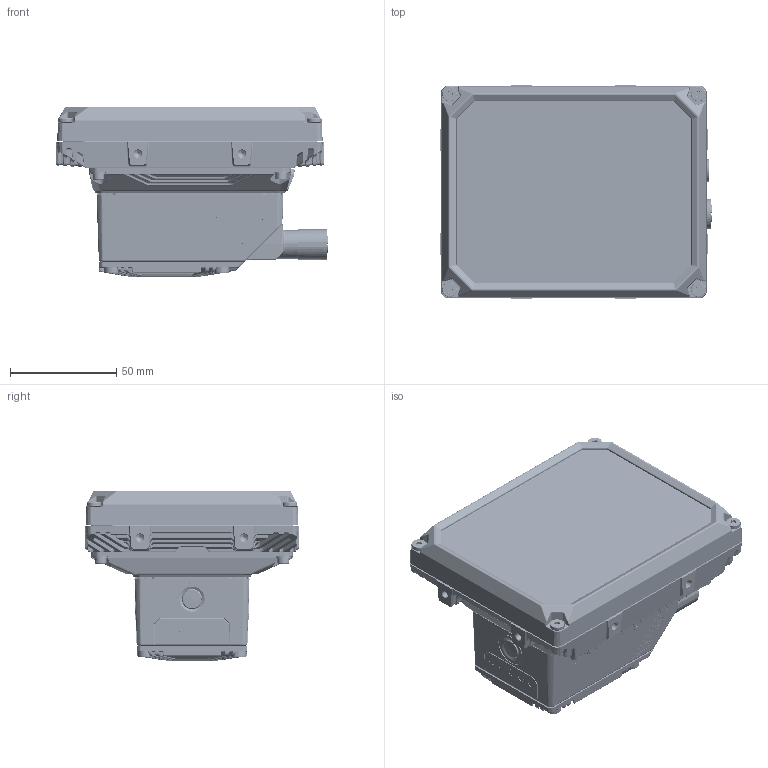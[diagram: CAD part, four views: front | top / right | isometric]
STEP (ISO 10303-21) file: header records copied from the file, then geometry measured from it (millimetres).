
FILE_DESCRIPTION(/* description */ (''),/* implementation_level */ '2;1');
FILE_NAME(/* name */ 'AP036144_00- P2X S-Mount 36 led portrait 0.stp',/* time_stamp */ '2022-05-23T09:53:53+02:00',/* author */ (''),/* organization */ (''),/* preprocessor_version */ 'ST-DEVELOPER v16.7',/* originating_system */ 'SIEMENS PLM Software NX 1946',/* authorisation */ '');
FILE_SCHEMA (('AUTOMOTIVE_DESIGN { 1 0 10303 214 3 1 1 1 }'));
Products named in the file (1): FGut78A0455Dbq0x
Bounding box: 127.95 x 101 x 79.8 mm (x, y, z)
Volume: 550931.4 mm3; surface area: 82383.3 mm2
Topology: 1 solids, 25 shells, 5854 faces, 13803 edges, 8003 vertices
Faces by surface type: cylinder 1833, plane 1685, bspline 1671, cone 212, torus 199, sphere 158, extrusion 96
Full cylindrical faces by diameter (mm): 0.6 x7, 3 x4, 3.2 x9, 3.3 x17, 3.5 x5, 3.6 x4, 5.5 x4, 6.2 x4, 6.9 x4, 7 x7, 9.5 x2, 10.5 x1, 10.7 x1, 10.8 x1, 11.15 x1, 11.85 x1, 12.2 x1, 13.5 x2, 14 x1, 15 x1, 16 x1
Entity records: 224815 total; most frequent: CARTESIAN_POINT 77468, ORIENTED_EDGE 26646, DIRECTION 24488, EDGE_CURVE 13323, AXIS2_PLACEMENT_3D 9671, VERTEX_POINT 7931, EDGE_LOOP 6272, ADVANCED_FACE 5853
